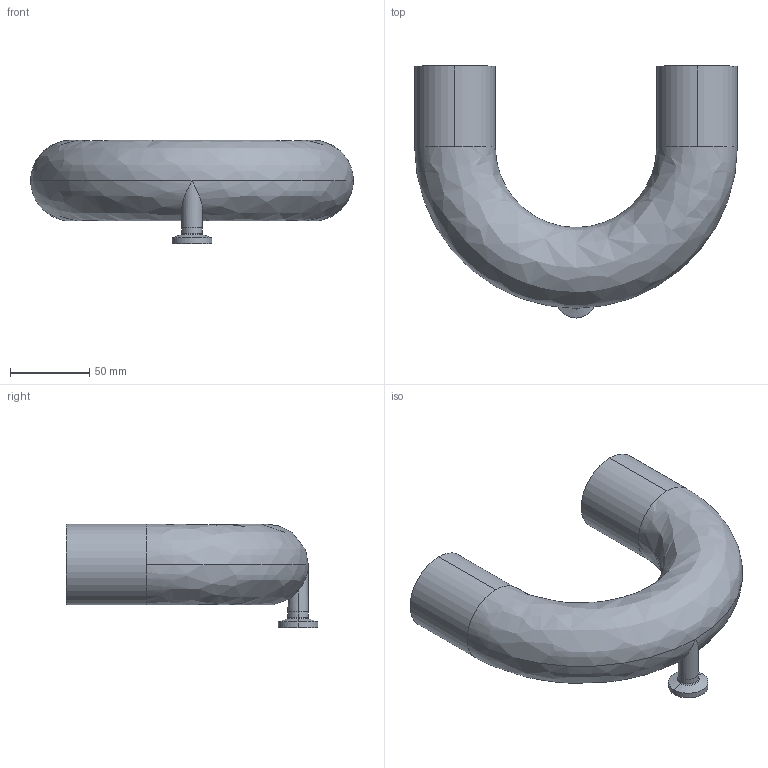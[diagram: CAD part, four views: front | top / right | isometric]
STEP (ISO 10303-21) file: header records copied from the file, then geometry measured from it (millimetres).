
FILE_DESCRIPTION (( 'STEP AP214' ), '1' );
FILE_NAME ('TE2USWWC6L2.0x.5-...STEP', '2016-05-25T05:41:10', ( 'eran' ), ( '' ), 'SwSTEP 2.0', 'SolidWorks 2016', '' );
FILE_SCHEMA (( 'AUTOMOTIVE_DESIGN' ));
Length unit declared in the file: millimetre
Products named in the file (1): TE2USWWC6L2.0x.5-..
Bounding box: 203.2 x 158.55 x 65.1 mm (x, y, z)
Volume: 89393.6 mm3; surface area: 108341.5 mm2
Topology: 2 solids, 2 shells, 42 faces, 100 edges, 62 vertices
Faces by surface type: cylinder 20, bspline 12, plane 6, cone 4
Entity records: 1727 total; most frequent: CARTESIAN_POINT 711, DIRECTION 218, ORIENTED_EDGE 200, EDGE_CURVE 100, AXIS2_PLACEMENT_3D 97, CIRCLE 66, VERTEX_POINT 62, EDGE_LOOP 48
